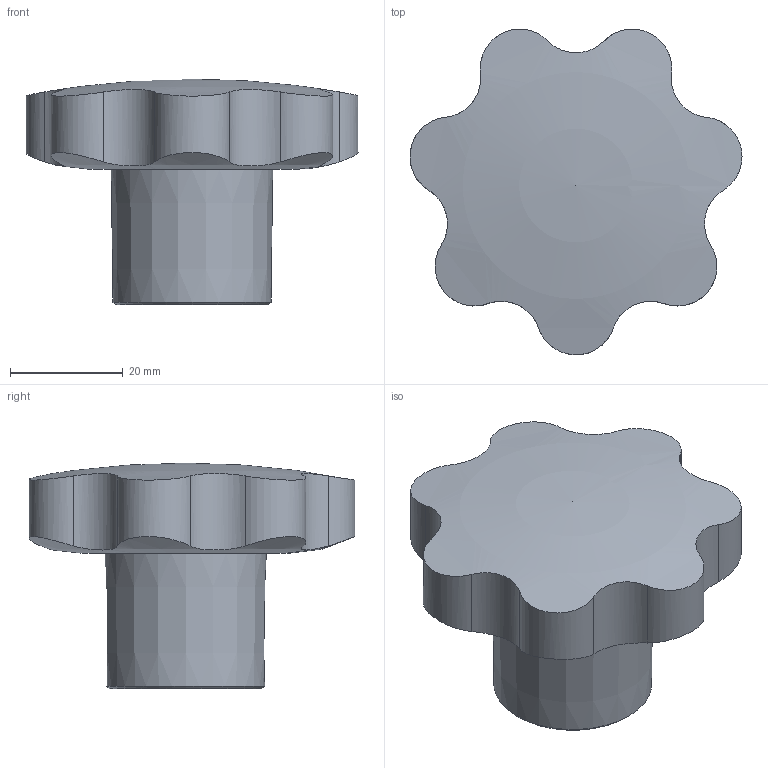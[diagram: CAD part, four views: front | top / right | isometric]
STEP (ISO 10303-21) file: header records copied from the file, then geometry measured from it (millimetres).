
FILE_DESCRIPTION( ('This file contains a STEP AP42 implementation' ,'as created by ZW3D STEP Interface translator.') ,'2;1' );
FILE_NAME( '7.C60.GW.stp' ,'26 817.105651', (''), ('ZWCAD Software Co.'), 'Version 1.0', 'ZW3D to STEP translator', '' );
FILE_SCHEMA(('AP242_MANAGED_MODEL_BASED_3D_ENGINEERING_MIM_LF { 1 0 10303 442 1 1 4 }'));
Length unit declared in the file: millimetre
Products named in the file (1): 0
Bounding box: 58.85 x 57.72 x 40 mm (x, y, z)
Volume: 47037.6 mm3; surface area: 11347 mm2
Topology: 2 solids, 2 shells, 27 faces, 64 edges, 42 vertices
Faces by surface type: cylinder 17, plane 5, cone 3, sphere 1, bspline 1
Full cylindrical faces by diameter (mm): 6.8 x1, 11 x2
Entity records: 1005 total; most frequent: CARTESIAN_POINT 383, ORIENTED_EDGE 126, DIRECTION 100, EDGE_CURVE 63, VERTEX_POINT 42, AXIS2_PLACEMENT_3D 40, EDGE_LOOP 31, B_SPLINE_CURVE_WITH_KNOTS 30
